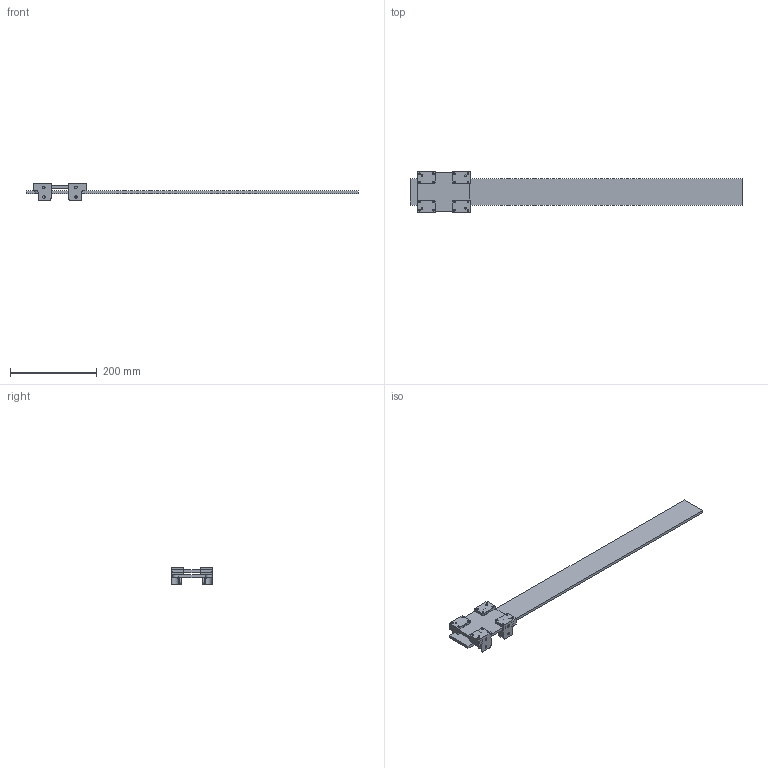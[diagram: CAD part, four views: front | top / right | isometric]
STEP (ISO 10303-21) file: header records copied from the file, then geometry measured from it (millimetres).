
FILE_DESCRIPTION(/* description */ (''),/* implementation_level */ '2;1');
FILE_NAME(/* name */ 'D:/dropbox/CBA/projects/machines/rctgantries/cad/dev/n17/RCTN17-025-01875-ALU v7.step',/* time_stamp */ '2019-01-06T23:10:22-05:00',/* author */ ('jakerobertread@gmail.com'),/* organization */ (''),/* preprocessor_version */ 'ST-DEVELOPER v17.2',/* originating_system */ 'Autodesk Translation Framework v7.6.0.251',/* authorisation */ '');
FILE_SCHEMA (('AUTOMOTIVE_DESIGN { 1 0 10303 214 3 1 1 }'));
Length unit declared in the file: millimetre
Products named in the file (1): RCTN17-025-01875-ALU
Bounding box: 766 x 95 x 40.85 mm (x, y, z)
Volume: 443676.1 mm3; surface area: 171582.3 mm2
Topology: 18 solids, 18 shells, 376 faces, 1008 edges, 672 vertices
Faces by surface type: cylinder 220, plane 156
Full cylindrical faces by diameter (mm): 3.3 x8, 4.25 x36, 5.8 x24, 16 x12
Entity records: 12676 total; most frequent: CARTESIAN_POINT 2725, DIRECTION 2078, ORIENTED_EDGE 2016, EDGE_CURVE 1008, AXIS2_PLACEMENT_3D 765, VERTEX_POINT 672, LINE 548, VECTOR 548
